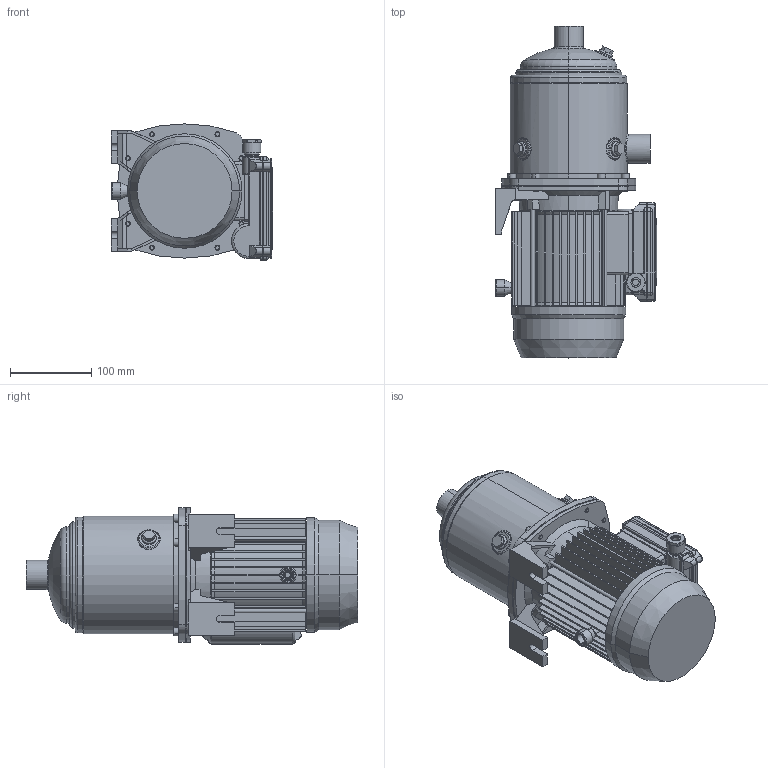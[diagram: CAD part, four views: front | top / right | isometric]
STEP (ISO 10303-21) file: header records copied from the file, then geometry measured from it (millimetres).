
FILE_DESCRIPTION((''),'2;1');
FILE_NAME('MATRIX_3-5T_0_75_M_ASM','2017-04-07T',('rosa'),('"Ebara Pumps Europe +39.444.706811"'),'PRO/ENGINEER BY PARAMETRIC TECHNOLOGY CORPORATION, 2012130','PRO/ENGINEER BY PARAMETRIC TECHNOLOGY CORPORATION, 2012130','');
FILE_SCHEMA(('AUTOMOTIVE_DESIGN { 1 0 10303 214 1 1 1 1 }'));
Length unit declared in the file: millimetre
Products named in the file (6): CORPO_POMPA_MATRIX_3-5; SUPPORTO_MATRIX_MEC_71; MEC_71_PACCO_90_MONOFASE; 72228; COPRIMORS_MEC63-71_MONOFASE_M4; MATRIX_3-5T_0_75_M_ASM
Assembly tree (5 placements, depth 2):
  MATRIX_3-5T_0_75_M_ASM
    CORPO_POMPA_MATRIX_3-5
    SUPPORTO_MATRIX_MEC_71
    MEC_71_PACCO_90_MONOFASE
    72228
    COPRIMORS_MEC63-71_MONOFASE_M4
Bounding box: 198 x 407.8 x 167.5 mm (x, y, z)
Volume: 4748511.6 mm3; surface area: 522414.2 mm2
Topology: 5 solids, 5 shells, 938 faces, 2262 edges, 1388 vertices
Faces by surface type: plane 455, cylinder 277, cone 126, torus 39, bspline 31, sphere 10
Entity records: 37513 total; most frequent: CARTESIAN_POINT 8018, DIRECTION 4686, ORIENTED_EDGE 4524, EDGE_CURVE 2262, PRESENTATION_STYLE_ASSIGNMENT 2216, STYLED_ITEM 2216, CURVE_STYLE 2212, AXIS2_PLACEMENT_3D 1777
